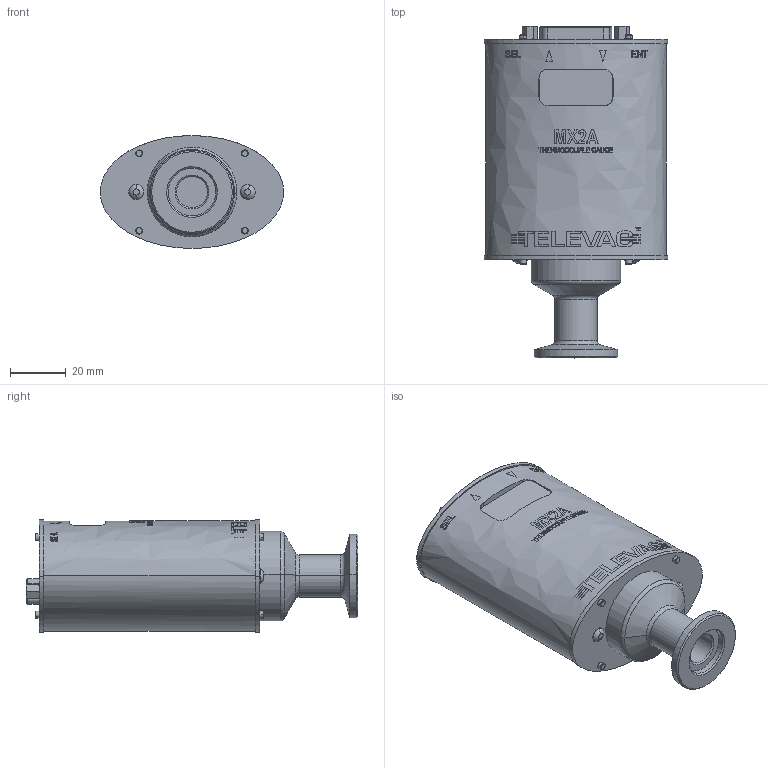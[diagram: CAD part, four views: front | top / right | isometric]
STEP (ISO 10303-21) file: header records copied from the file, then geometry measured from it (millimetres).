
FILE_DESCRIPTION (( 'STEP AP214' ), '1' );
FILE_NAME ('8910-116_defeature.STEP', '2023-06-19T18:28:42', ( '' ), ( '' ), 'SwSTEP 2.0', 'SolidWorks 2022', '' );
FILE_SCHEMA (( 'AUTOMOTIVE_DESIGN' ));
Length unit declared in the file: millimetre
Products named in the file (1): 8910-116_defeature
Bounding box: 66.04 x 119.5 x 40.64 mm (x, y, z)
Volume: 157665.7 mm3; surface area: 28574.2 mm2
Topology: 2 solids, 2 shells, 658 faces, 1999 edges, 1480 vertices
Faces by surface type: plane 209, cylinder 205, bspline 104, cone 76, torus 60, sphere 4
Entity records: 36491 total; most frequent: CARTESIAN_POINT 12642, ORIENTED_EDGE 3998, DIRECTION 2753, EDGE_CURVE 1999, VERTEX_POINT 1480, AXIS2_PLACEMENT_3D 1035, EDGE_LOOP 793, LINE 683
